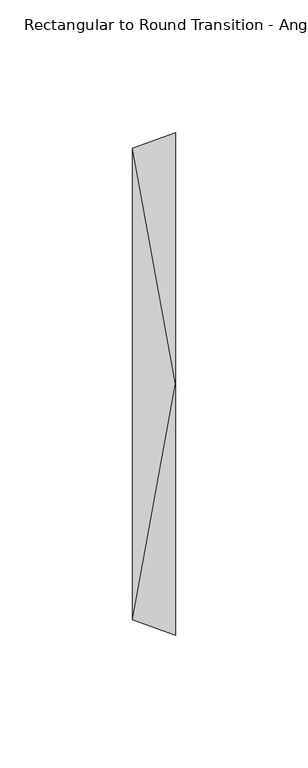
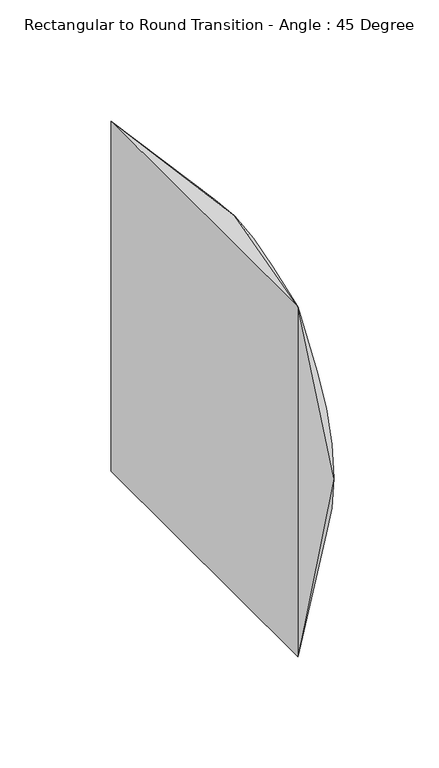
"""IFC4 building model written with IfcOpenShell, lengths in millimetres: duct fitting geometry, Rectangular to Round Transition - Angle : 45 Degree."""

import ifcopenshell
import ifcopenshell.guid

model = None  # the IFC model being written
_history = None  # IfcOwnerHistory: only IFC2X3 demands one
_inside = {}  # id of a spatial element -> (the spatial element, [elements in it])
_under = {}  # id of a project, library or spatial element -> (it, [spatial elements below it])
_declared = {}  # id of a project -> (the project, [libraries it declares])
_typed = {}  # id of a type object -> (the type object, [elements of that type])
_made_of = {}  # id of a material, layer set ... -> (it, [elements and type objects made of it])


def new_model(schema):
    """Start an empty IFC model of exactly this schema.

    Asked for "IFC4X3", IfcOpenShell would pick the latest addendum, in which some entities
    have other attributes; the version numbers below select the first issue.
    IFC2X3 requires an IfcOwnerHistory on every rooted entity: one is made here for all.
    """
    global model, _history
    if schema == "IFC4X3":
        model = ifcopenshell.file(schema_version=(4, 3, 0, 0))
    else:
        model = ifcopenshell.file(schema=schema)
    _inside.clear()
    _under.clear()
    _declared.clear()
    _typed.clear()
    _made_of.clear()
    _history = None
    if model.schema == "IFC2X3":
        org = make("IfcOrganization", Name="unknown")
        user = make(
            "IfcPersonAndOrganization",
            ThePerson=make("IfcPerson", FamilyName="unknown"),
            TheOrganization=org,
        )
        app = make(
            "IfcApplication",
            ApplicationDeveloper=org,
            Version="unknown",
            ApplicationFullName="unknown",
            ApplicationIdentifier="unknown",
        )
        _history = make(
            "IfcOwnerHistory",
            OwningUser=user,
            OwningApplication=app,
            ChangeAction="ADDED",
            CreationDate=0,
        )
    return model


def make(cls, **values):
    """One entity of the class cls with the attributes given. An attribute that is None is left unset."""
    return model.create_entity(
        cls, **{name: value for name, value in values.items() if value is not None}
    )


def rooted(cls, **values):
    """An entity with a GlobalId (a new one), such as an element, a storey or a relation."""
    return make(cls, GlobalId=ifcopenshell.guid.new(), OwnerHistory=_history, **values)


def si_unit(unit_type, name, prefix=None):
    """IfcSIUnit, for example si_unit("LENGTHUNIT", "METRE", prefix="MILLI")."""
    return make("IfcSIUnit", UnitType=unit_type, Prefix=prefix, Name=name)


def assignment(units):
    """IfcUnitAssignment: the units of a project."""
    return None if units is None else make("IfcUnitAssignment", Units=units)


def point(xyz):
    """IfcCartesianPoint."""
    return None if xyz is None else make("IfcCartesianPoint", Coordinates=xyz)


def direction(xyz):
    """IfcDirection."""
    return None if xyz is None else make("IfcDirection", DirectionRatios=xyz)


def frame(location, z_axis=None, x_axis=None):
    """IfcAxis2Placement3D, a coordinate frame: its origin and axes. An axis left out is left unset."""
    return make(
        "IfcAxis2Placement3D",
        Location=point(location),
        Axis=direction(z_axis),
        RefDirection=direction(x_axis),
    )


def origin():
    """The frame at (0, 0, 0) with its axes left unset."""
    return frame((0.0, 0.0, 0.0))


def place(relative_to, where):
    """IfcLocalPlacement: puts the frame where relative to a parent placement (None: the world)."""
    return make(
        "IfcLocalPlacement", PlacementRelTo=relative_to, RelativePlacement=where
    )


def context(
    kind, dimensions, precision=None, world=None, true_north=None, identifier=None
):
    """IfcGeometricRepresentationContext, for example the 3D "Model" context."""
    return make(
        "IfcGeometricRepresentationContext",
        ContextIdentifier=identifier,
        ContextType=kind,
        CoordinateSpaceDimension=dimensions,
        Precision=precision,
        WorldCoordinateSystem=world,
        TrueNorth=true_north,
    )


def project(units=None, contexts=None):
    """IfcProject with its units and contexts."""
    return rooted(
        "IfcProject",
        Name="project",
        RepresentationContexts=contexts,
        UnitsInContext=assignment(units),
    )


def spatial(cls, under=None, at=None, **own):
    """A site, building, storey or space (cls), placed at a placement, below another one or the project."""
    s = rooted(cls, ObjectPlacement=at, **own)
    if under is not None:
        _under.setdefault(under.id(), (under, []))[1].append(s)
    return s


def circle_curve(where, radius):
    """IfcCircle in the frame where."""
    return make("IfcCircle", Position=where, Radius=radius)


def shape(context_of_items, identifier, shape_type, items):
    """IfcShapeRepresentation: the items that make up one representation, for example the "Body"."""
    return make(
        "IfcShapeRepresentation",
        ContextOfItems=context_of_items,
        RepresentationIdentifier=identifier,
        RepresentationType=shape_type,
        Items=items,
    )


def source(mapping_origin, context_of_items, identifier, shape_type, items):
    """IfcRepresentationMap: a shape defined once, which mapped items show again and again."""
    return make(
        "IfcRepresentationMap",
        MappingOrigin=mapping_origin,
        MappedRepresentation=shape(context_of_items, identifier, shape_type, items),
    )


def transform(
    local_origin,
    x_axis=None,
    y_axis=None,
    z_axis=None,
    scale=None,
    scale2=None,
    scale3=None,
    uniform=True,
):
    """IfcCartesianTransformationOperator3D, or its non-uniform kind. x_axis, y_axis, z_axis: its Axis1, 2, 3."""
    if uniform:
        return make(
            "IfcCartesianTransformationOperator3D",
            Axis1=direction(x_axis),
            Axis2=direction(y_axis),
            LocalOrigin=point(local_origin),
            Scale=scale,
            Axis3=direction(z_axis),
        )
    return make(
        "IfcCartesianTransformationOperator3DnonUniform",
        Axis1=direction(x_axis),
        Axis2=direction(y_axis),
        LocalOrigin=point(local_origin),
        Scale=scale,
        Axis3=direction(z_axis),
        Scale2=scale2,
        Scale3=scale3,
    )


def mapped(mapping_source, mapping_target):
    """IfcMappedItem: shows the shape of a source again, moved by a transform."""
    return make(
        "IfcMappedItem", MappingSource=mapping_source, MappingTarget=mapping_target
    )


def made_of(thing, what):
    """Note that an element or type object is made of a material, layer set ...; save() writes the relation."""
    if what is not None:
        _made_of.setdefault(what.id(), (what, []))[1].append(thing)
    return thing


def element(
    cls,
    number,
    at=None,
    inside=None,
    cuts=None,
    type_object=None,
    material=None,
    context=None,
    identifier="Body",
    shape_type=None,
    held_by="IfcProductDefinitionShape",
    body=None,
    shapes=None,
    **own,
):
    """One element of the class cls, such as IfcWall. Its Tag is "e" and its number.

    at: its placement. inside: the storey or other place that contains it. cuts: it is an
    opening in that element (IfcRelVoidsElement). A single representation is given by context,
    identifier, shape_type and body (its items); several are given by shapes. held_by: the class
    of the entity that holds the representations. save() writes the other relations.
    """
    e = rooted(cls, Tag="e%d" % number, ObjectPlacement=at, **own)
    if body is not None:
        shapes = [shape(context, identifier, shape_type, body)]
    if shapes is not None:
        e.Representation = make(held_by, Representations=shapes)
    if inside is not None:
        _inside.setdefault(inside.id(), (inside, []))[1].append(e)
    if cuts is not None:
        rooted(
            "IfcRelVoidsElement", RelatingBuildingElement=cuts, RelatedOpeningElement=e
        )
    if type_object is not None:
        _typed.setdefault(type_object.id(), (type_object, []))[1].append(e)
    return made_of(e, material)


def aggregate(whole, parts):
    """IfcRelAggregates: a whole, such as a stair, and the parts it consists of."""
    return rooted("IfcRelAggregates", RelatingObject=whole, RelatedObjects=parts)


def save(model, path):
    """Write the relations noted so far, then the file.

    IfcRelAggregates (storeys below a building ...), IfcRelContainedInSpatialStructure (elements
    in a storey), IfcRelDefinesByType, IfcRelAssociatesMaterial and IfcRelDeclares: one each for
    every whole, place, type object, material and project.
    """
    for whole, parts in _under.values():
        aggregate(whole, parts)
    for where, things in _inside.values():
        rooted(
            "IfcRelContainedInSpatialStructure",
            RelatedElements=things,
            RelatingStructure=where,
        )
    for kind, things in _typed.values():
        rooted("IfcRelDefinesByType", RelatedObjects=things, RelatingType=kind)
    for what, things in _made_of.values():
        rooted("IfcRelAssociatesMaterial", RelatedObjects=things, RelatingMaterial=what)
    for by, libraries in _declared.values():
        rooted("IfcRelDeclares", RelatingContext=by, RelatedDefinitions=libraries)
    model.write(path)


def plane_surface(at):
    """IfcPlane: the flat surface through the origin of the frame at, square to its z axis."""
    return make("IfcPlane", Position=at)


def spline_surface(u_degree, v_degree, points, u_multiplicities, v_multiplicities, u_knots, v_knots, weights=None):
    """IfcBSplineSurfaceWithKnots; with weights, IfcRationalBSplineSurfaceWithKnots. points: one row for each step in u."""
    own = dict(
        UDegree=u_degree,
        VDegree=v_degree,
        ControlPointsList=[[point(p) for p in row] for row in points],
        SurfaceForm="UNSPECIFIED",
        UClosed=False,
        VClosed=False,
        SelfIntersect=False,
        UMultiplicities=u_multiplicities,
        VMultiplicities=v_multiplicities,
        UKnots=u_knots,
        VKnots=v_knots,
        KnotSpec="UNSPECIFIED",
    )
    if weights is None:
        return make("IfcBSplineSurfaceWithKnots", **own)
    return make("IfcRationalBSplineSurfaceWithKnots", WeightsData=weights, **own)


def advanced_brep(points, edges, surfaces, faces):
    """IfcAdvancedBrep: a solid bounded by faces that lie on surfaces and meet in shared edges.

    An edge is (start, end): straight between two places in points (the first is 0);
    or (start, end, curve); or (start, end, curve, False) where it runs against its curve.
    A face is (place in surfaces, loops), or (place, loops, False) where it looks against
    its surface's normal. A loop lists edges by number (the first is 1), with a minus sign
    where the edge is run from its end to its start. The first loop is the outer one.
    """
    corners = [point(p) for p in points]
    vertices = [make("IfcVertexPoint", VertexGeometry=c) for c in corners]
    made = []
    for start, end, *more in edges:
        made.append(
            make(
                "IfcEdgeCurve",
                EdgeStart=vertices[start],
                EdgeEnd=vertices[end],
                EdgeGeometry=more[0] if more else make("IfcPolyline", Points=[corners[start], corners[end]]),
                SameSense=more[1] if len(more) > 1 else True,
            )
        )
    hull = []
    for where, loops, *sense in faces:
        bounds = []
        for j, loop in enumerate(loops):
            ring = [make("IfcOrientedEdge", EdgeElement=made[abs(k) - 1], Orientation=k > 0) for k in loop]
            bounds.append(
                make(
                    "IfcFaceOuterBound" if j == 0 else "IfcFaceBound",
                    Bound=make("IfcEdgeLoop", EdgeList=ring),
                    Orientation=True,
                )
            )
        hull.append(make("IfcAdvancedFace", Bounds=bounds, FaceSurface=surfaces[where], SameSense=sense[0] if sense else True))
    return make("IfcAdvancedBrep", Outer=make("IfcClosedShell", CfsFaces=hull))


def rectangular_to_round_transition_angle_45_degree_460bb45a(model_context):
    return source(origin(), model_context, "Body", "AdvancedBrep", [
        advanced_brep(
        [(16.3522732, 0.0, 94.8266667), (16.3522732, -94.8266667, 0.0), (16.3522732, 0.0, -94.8266667), (16.3522732, 94.8266667, 0.0), (0.0, -88.9, 101.6), (0.0, 88.9, 101.6), (0.0, 88.9, -101.6), (0.0, -88.9, -101.6)],
        [
            (0, 1, circle_curve(frame((16.3522732, 0.0, 0.0), z_axis=(1.0, 0.0, 0.0), x_axis=(0.0, 1.0, 0.0)), 94.8266667)),
            (1, 2, circle_curve(frame((16.3522732, 0.0, 0.0), z_axis=(1.0, 0.0, 0.0), x_axis=(0.0, 1.0, 0.0)), 94.8266667)),
            (2, 3, circle_curve(frame((16.3522732, 0.0, 0.0), z_axis=(1.0, 0.0, 0.0), x_axis=(0.0, 1.0, 0.0)), 94.8266667)),
            (3, 0, circle_curve(frame((16.3522732, 0.0, 0.0), z_axis=(1.0, 0.0, 0.0), x_axis=(0.0, 1.0, 0.0)), 94.8266667)),
            (4, 5),
            (5, 6),
            (6, 7),
            (7, 4),
            (0, 4),
            (4, 1),
            (7, 1),
            (7, 2),
            (6, 2),
            (6, 3),
            (5, 3),
            (5, 0),
        ],
        [
            plane_surface(frame((16.3522732, 0.0, 0.0), z_axis=(1.0, 0.0, 0.0), x_axis=(0.0, 0.0, -1.0))),
            plane_surface(frame((0.0, 0.0, 0.0), z_axis=(-1.0, 0.0, 0.0), x_axis=(0.0, 0.0, -1.0))),
            spline_surface(2, 1, [[(0.0, -88.9, 101.6), (16.3522732, 0.0, 94.8266667)], [(0.0, -88.9, 101.6), (16.3522732, -94.8266667, 94.8266667)], [(0.0, -88.9, 101.6), (16.3522732, -94.8266667, 0.0)]], [3, 3], [2, 2], [0.0, 1.0], [0.0, 1.0], weights=[[1.0, 1.0], [0.7071067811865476, 0.7071067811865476], [1.0, 1.0]]),
            plane_surface(frame((0.0, -88.9, 0.0), z_axis=(-0.34074686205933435, -0.9401550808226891, 0.0), x_axis=(0.0, 0.0, -1.0))),
            spline_surface(2, 1, [[(0.0, -88.9, -101.6), (16.3522732, -94.8266667, 0.0)], [(0.0, -88.9, -101.6), (16.3522732, -94.8266667, -94.8266667)], [(0.0, -88.9, -101.6), (16.3522732, 0.0, -94.8266667)]], [3, 3], [2, 2], [0.0, 1.0], [0.0, 1.0], weights=[[1.0, 1.0], [0.7071067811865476, 0.7071067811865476], [1.0, 1.0]]),
            plane_surface(frame((0.0, 0.0, -101.6), z_axis=(0.382683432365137, 0.0, -0.9238795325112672), x_axis=(0.0, 1.0, 0.0))),
            spline_surface(2, 1, [[(0.0, 88.9, -101.6), (16.3522732, 0.0, -94.8266667)], [(0.0, 88.9, -101.6), (16.3522732, 94.8266667, -94.8266667)], [(0.0, 88.9, -101.6), (16.3522732, 94.8266667, 0.0)]], [3, 3], [2, 2], [0.0, 1.0], [0.0, 1.0], weights=[[1.0, 1.0], [0.7071067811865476, 0.7071067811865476], [1.0, 1.0]]),
            plane_surface(frame((0.0, 88.9, 0.0), z_axis=(-0.3407468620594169, 0.9401550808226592, 0.0), x_axis=(0.0, 0.0, 1.0))),
            spline_surface(2, 1, [[(0.0, 88.9, 101.6), (16.3522732, 94.8266667, 0.0)], [(0.0, 88.9, 101.6), (16.3522732, 94.8266667, 94.8266667)], [(0.0, 88.9, 101.6), (16.3522732, 0.0, 94.8266667)]], [3, 3], [2, 2], [0.0, 1.0], [0.0, 1.0], weights=[[1.0, 1.0], [0.7071067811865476, 0.7071067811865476], [1.0, 1.0]]),
            plane_surface(frame((0.0, 0.0, 101.6), z_axis=(0.3826834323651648, 0.0, 0.9238795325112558), x_axis=(0.0, -1.0, 0.0))),
        ],
        [
            (0, [[1, 2, 3, 4]]),
            (1, [[5, 6, 7, 8]]),
            (2, [[-1, 9, 10]]),
            (3, [[-8, 11, -10]]),
            (4, [[-2, -11, 12]]),
            (5, [[-7, 13, -12]]),
            (6, [[-3, -13, 14]]),
            (7, [[-6, 15, -14]]),
            (8, [[-4, -15, 16]]),
            (9, [[-5, -9, -16]]),
        ],
    ),
    ])


if __name__ == "__main__":
    model = new_model("IFC4")
    model_context = context("Model", 3, world=origin())
    ifc_project = project(units=[si_unit("LENGTHUNIT", "METRE", prefix="MILLI")], contexts=[model_context])
    site = spatial("IfcSite", under=ifc_project)
    building = spatial("IfcBuilding", under=site)
    placement = place(None, origin())
    rectangular_to_round_transition_angle_45_degree_shape = rectangular_to_round_transition_angle_45_degree_460bb45a(model_context)
    element("IfcDuctFitting", 1, ObjectType="Rectangular to Round Transition - Angle : 45 Degree", at=placement, inside=building, context=model_context, shape_type="MappedRepresentation", body=[
        mapped(rectangular_to_round_transition_angle_45_degree_shape, transform((0.0, 0.0, 0.0), x_axis=(1.0, 0.0, 0.0), y_axis=(0.0, 1.0, 0.0), z_axis=(0.0, 0.0, 1.0))),
    ])
    save(model, "model.ifc")
